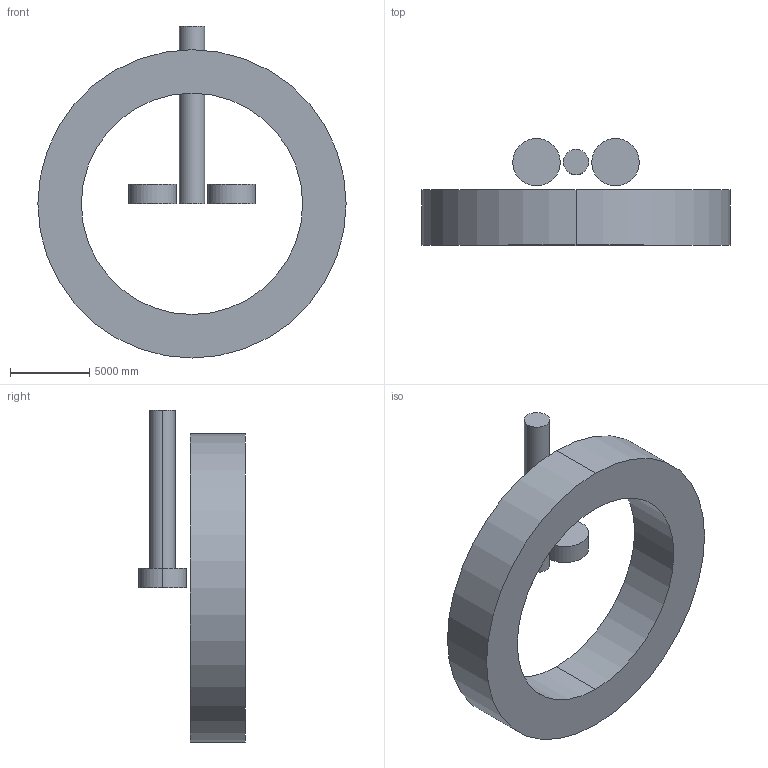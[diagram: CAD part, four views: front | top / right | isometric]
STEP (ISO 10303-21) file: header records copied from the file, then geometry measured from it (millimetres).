
FILE_DESCRIPTION (( 'STEP AP203' ), '1' );
FILE_NAME ('EP_03_Inner_Gimbal_And_Capstan_Hub.STEP', '2026-10-28T18:31:36', ( '' ), ( '' ), 'SwSTEP 2.0', 'SolidWorks 2026', '' );
FILE_SCHEMA (( 'CONFIG_CONTROL_DESIGN' ));
Length unit declared in the file: inch
Products named in the file (1): EP_03_Inner_Gimbal_And_Capstan_Hub
Bounding box: 19500 x 6750 x 21000 mm (x, y, z)
Volume: 546774566403.2 mm3; surface area: 770177147 mm2
Topology: 4 solids, 4 shells, 18 faces, 30 edges, 20 vertices
Faces by surface type: cylinder 10, plane 8
Entity records: 511 total; most frequent: DIRECTION 88, CARTESIAN_POINT 69, ORIENTED_EDGE 60, AXIS2_PLACEMENT_3D 39, EDGE_CURVE 30, VERTEX_POINT 20, CIRCLE 20, EDGE_LOOP 20
